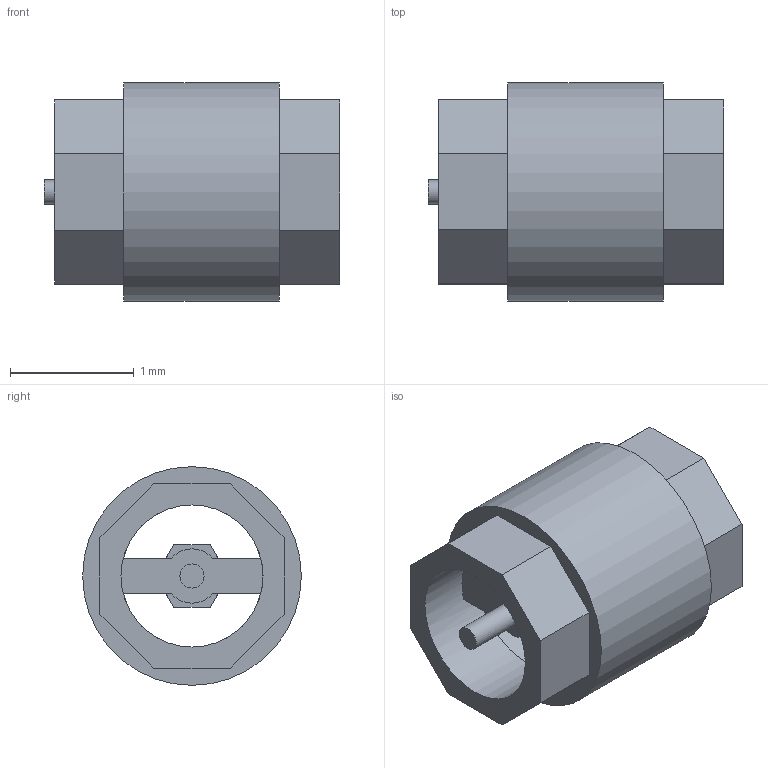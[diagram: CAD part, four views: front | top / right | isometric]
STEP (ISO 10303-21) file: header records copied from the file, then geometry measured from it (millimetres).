
FILE_DESCRIPTION(('Open CASCADE Model'),'2;1');
FILE_NAME('Open CASCADE Shape Model','2021-10-26T16:53:10',('Author'),( 'Open CASCADE'),'Open CASCADE STEP processor 7.3','Open CASCADE 7.3' ,'Unknown');
FILE_SCHEMA(('AUTOMOTIVE_DESIGN { 1 0 10303 214 1 1 1 1 }'));
Length unit declared in the file: millimetre
Products named in the file (1): Open CASCADE STEP translator 7.3 1
Bounding box: 2.4 x 1.77 x 1.77 mm (x, y, z)
Volume: 2 mm3; surface area: 29.3 mm2
Topology: 1 solids, 1 shells, 52 faces, 140 edges, 92 vertices
Faces by surface type: plane 42, cylinder 10
Full cylindrical faces by diameter (mm): 0.195 x2, 1.15 x2, 1.49 x1, 1.77 x1
Entity records: 3505 total; most frequent: CARTESIAN_POINT 661, DIRECTION 533, LINE 358, VECTOR 358, ORIENTED_EDGE 280, PCURVE 280, DEFINITIONAL_REPRESENTATION 280, EDGE_CURVE 140
